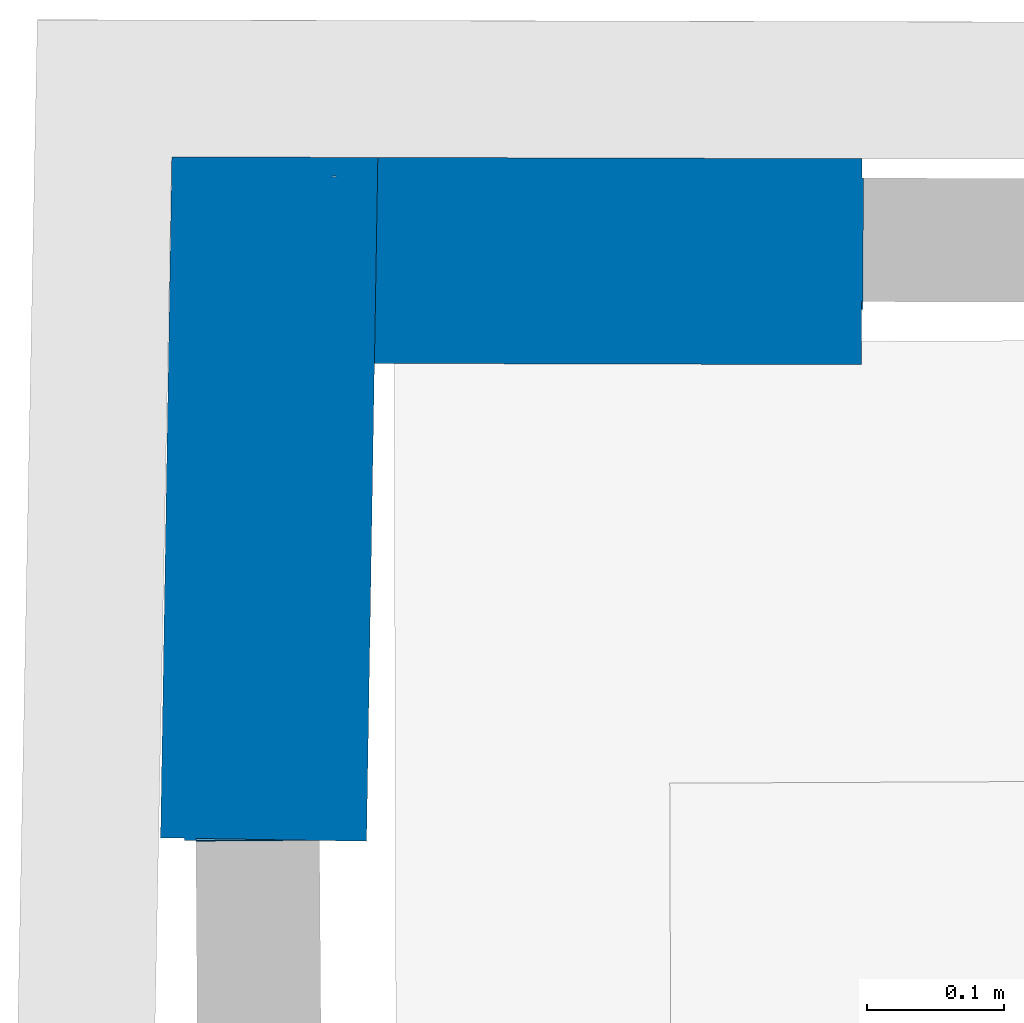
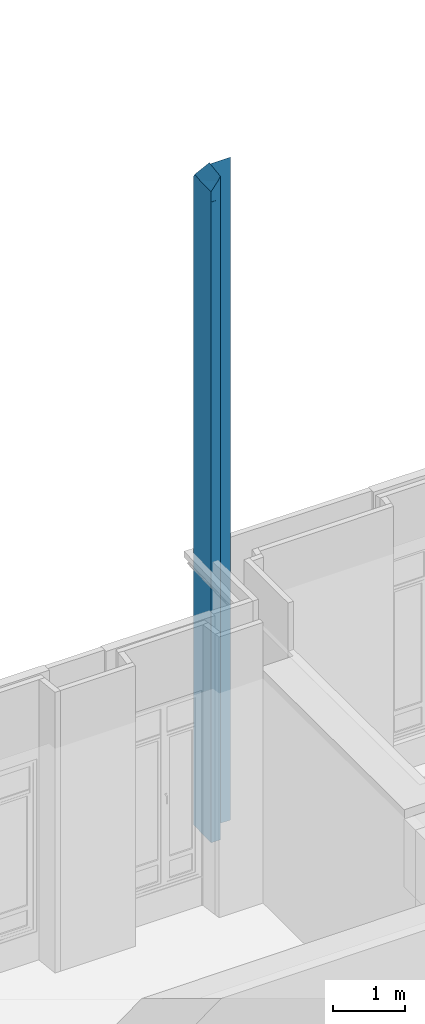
# One storey, part 69 of 97: 2 walls.
"""IFC2X3 building model written with IfcOpenShell, lengths in centimetres."""

from ifc_helpers import new_model, entity, si_unit, converted_unit, direction, frame, origin, origin_with_axes, place, context, subcontext, project, spatial, faceted_brep, material, layer, layer_set, layer_usage, type_object, element, save


model = new_model("IFC2X3")

# Units and contexts
model_context = context("Model", 3, precision=0.0001, world=origin(), true_north=direction((0.225632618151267, 0.974212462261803, 0.0)))
body_context = subcontext(model_context, "Body", "Model", "MODEL_VIEW")
ifc_project = project(units=[si_unit("LENGTHUNIT", "METRE", prefix="CENTI"), si_unit("AREAUNIT", "SQUARE_METRE", prefix="CENTI"), si_unit("VOLUMEUNIT", "CUBIC_METRE", prefix="CENTI"), converted_unit("PLANEANGLEUNIT", "DEGREE", entity("IfcRatioMeasure", 0.0174532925), si_unit("PLANEANGLEUNIT", "RADIAN"), dimensions=[0, 0, 0, 0, 0, 0, 0])], contexts=[model_context])

# Site, building, storey
site_placement = place(None, origin_with_axes())
site = spatial("IfcSite", under=ifc_project, at=site_placement, Name="Default Site", CompositionType="ELEMENT")
building_placement = place(site_placement, origin_with_axes())
building = spatial("IfcBuilding", under=site, at=building_placement, Name="Default Building", CompositionType="ELEMENT")
storey_placement = place(building_placement, origin_with_axes())
storey = spatial("IfcBuildingStorey", under=building, at=storey_placement, Name="Rez-de-chaussée", CompositionType="ELEMENT", Elevation=0.0)

# Walls
ifc_material = material(Name="<aucun>")
ifc_layer = layer(ifc_material, 15.0)
ifc_layer_set = layer_set([ifc_layer], Name="default")
ifc_layer_usage_1 = layer_usage(ifc_layer_set, "AXIS2", "POSITIVE", -7.5)
wall_type = type_object("IfcWallType", Name="default 150", PredefinedType="NOTDEFINED", material=ifc_layer_set)
wall_1_placement = place(storey_placement, frame((251.558979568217, 710.916284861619, 0.0128503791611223), z_axis=(0.0, 0.0, 1.0), x_axis=(0.0164953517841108, 0.999863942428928, 0.0)))
element("IfcWall", 1, at=wall_1_placement, inside=storey, type_object=wall_type, material=ifc_layer_usage_1, Name="Enveloppe 369602", context=body_context, shape_type="Brep", body=[
    faceted_brep([(34.7972728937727, 7.50000869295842, -4.62918597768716e-10), (31.9925167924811, 7.50000869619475, -4.62918597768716e-10), (31.9925167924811, 7.50000869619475, 1108.16652813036), (34.7972728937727, 7.50000869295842, 1108.51271190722), (-0.150587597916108, 4.92447038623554, -4.62918597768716e-10), (-0.190345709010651, 4.92352191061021, -4.62918597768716e-10), (-0.214658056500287, 4.92294191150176, -4.62918597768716e-10), (-0.214658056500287, 4.92294191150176, 477.795339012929), (-0.214658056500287, 4.92294191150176, 853.8975004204), (-0.150587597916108, 4.92447038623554, 853.8975004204), (49.5892958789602, 7.50001074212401, -4.62918597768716e-10), (48.2178213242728, 7.50001074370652, -4.62918597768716e-10), (46.4527111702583, 7.50001074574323, -4.62918597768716e-10), (46.4527111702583, 7.50001074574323, 1109.95132961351), (49.5892958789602, 7.50001074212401, 1105.00767269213), (-0.0199263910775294, -3.2383662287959, 1088.89753856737), (2.06551693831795e-06, -3.23799853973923, 1088.89753856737), (2.06551693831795e-06, -3.23799853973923, 853.8975004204), (-0.0199263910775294, -3.2383662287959, 853.8975004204), (-0.0199263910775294, -3.2383662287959, 1122.41709270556), (2.06551693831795e-06, -3.23799853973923, 1122.41652050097), (2.06551693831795e-06, -3.23799853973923, 1090.89748897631), (6.40575638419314e-06, 4.92806297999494, 853.8975004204), (6.40575638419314e-06, 4.92806297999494, -4.62918597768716e-10), (31.9925167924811, 7.49999645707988, -4.62918597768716e-10), (1.98516349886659e-05, 7.49999649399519, -4.62918597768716e-10), (1.98516349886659e-05, 7.49999649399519, 1108.30051937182), (31.9925167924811, 7.49999645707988, 1108.16652813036), (46.4527111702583, 7.50000850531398, -4.62918597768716e-10), (34.7972728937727, 7.50000851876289, -4.62918597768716e-10), (34.7972728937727, 7.50000851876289, 1108.51271190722), (46.4527111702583, 7.50000850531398, 1109.95132961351), (5.65486182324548e-06, 5.76353637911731, 853.8975004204), (-0.166048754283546, 5.76047260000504, 853.8975004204), (-0.166048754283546, 5.76047260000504, 1088.89753856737), (-0.166048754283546, 5.76047260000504, 1090.89748897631), (5.65486182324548e-06, 5.76353637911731, 1090.89748897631), (48.4172612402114, -7.50001048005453, -4.62918597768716e-10), (49.7987507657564, -7.5000104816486, -4.62918597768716e-10), (49.7987507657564, -7.5000104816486, 1105.01349010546), (48.4172612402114, -7.50001048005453, 1107.19091930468), (34.7972723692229, -7.49999131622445, -4.62918597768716e-10), (48.4172612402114, -7.4999913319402, -4.62918597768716e-10), (48.4172612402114, -7.4999913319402, 1107.19091930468), (34.7972723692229, -7.49999131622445, 1128.65784206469), (31.7182974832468, -7.49999693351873, -4.62918597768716e-10), (34.7972723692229, -7.49999693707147, -4.62918597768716e-10), (34.7972723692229, -7.49999693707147, 1128.65784206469), (31.7182974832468, -7.49999693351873, 1133.51070919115), (1.93270850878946e-05, -7.49999151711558, -4.62918597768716e-10), (31.7182974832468, -7.49999155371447, -4.62918597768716e-10), (31.7182974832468, -7.49999155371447, 1133.51070919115), (1.93270850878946e-05, -7.49999151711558, 1129.59597148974), (34.7972518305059, 5.75817131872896, -4.62918597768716e-10), (26.2390837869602, 5.55400720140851, -4.62918597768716e-10), (31.9925154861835, 7.50001436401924, 1108.16653871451), (26.239085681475, 5.55398123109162, 1110.7488720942), (34.7972518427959, 5.75817115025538, 1111.45966081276), (-0.10734268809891, 0.424206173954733, -4.62918597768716e-10), (-0.214657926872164, 4.92293647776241, -4.62918597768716e-10), (-0.190345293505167, 4.92350449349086, -4.62918597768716e-10), (1.90370439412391e-06, -3.23798976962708, -4.62918597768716e-10), (-0.0199263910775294, -3.2383662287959, -4.62918597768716e-10), (1.90370439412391e-06, -3.23798976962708, 853.8975004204), (-0.190345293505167, 4.92350449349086, 853.8975004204), (-0.214657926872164, 4.92293647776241, 853.8975004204), (-0.10734268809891, 0.424206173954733, 853.8975004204), (-0.10734268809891, 0.424206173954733, 477.795339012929), (-0.214665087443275, 4.92293630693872, 477.795339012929), (-0.214665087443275, 4.92293630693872, -4.62918597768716e-10), (-0.0199263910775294, -3.2383662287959, 477.795339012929), (-0.107301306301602, 0.424207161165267, 477.795339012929), (-0.107301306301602, 0.424207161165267, -4.62918597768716e-10), (-0.107301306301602, 0.424207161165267, 853.8975004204), (-0.214665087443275, 4.92293630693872, 853.8975004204), (49.7987507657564, -7.49999129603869, -4.62918597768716e-10), (48.2392642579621, 6.07881785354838, -4.62918597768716e-10), (44.9803965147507, 6.00109004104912, -4.62918597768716e-10), (44.9803932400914, 6.0010899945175, 1112.30547258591), (48.2392395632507, 6.07881750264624, 1107.16734788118), (48.4172419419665, -7.500010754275, 1107.19090706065), (49.7987377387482, -7.49999148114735, 1105.0134818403), (49.5892840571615, 7.5000105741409, 1105.00766519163), (48.2359272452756, 6.07873895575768, -4.62918597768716e-10), (34.7972574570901, -4.36552903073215, -4.62918597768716e-10), (44.9803488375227, 6.00108925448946, -4.62918597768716e-10), (44.9803488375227, 6.00108925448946, 1112.305570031), (34.7972689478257, -4.36552886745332, 1128.58765892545), (34.7972776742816, -7.49999124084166, 1128.65784543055), (48.4172543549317, -7.50001057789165, 1107.19091493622), (48.2359222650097, 6.07873888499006, 1107.17260559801), (-1.33019294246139e-05, -3.32089944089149, -4.62918597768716e-10), (-0.0178376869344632, -3.32739322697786, -4.62918597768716e-10), (-0.0178376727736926, -3.32738878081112, 1122.53411192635), (-1.33310655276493e-05, -3.32090858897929, 1122.52551851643), (1.89430979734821e-06, -3.23799271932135, 1122.41651825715), (-0.0178376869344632, -3.32739322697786, 477.795339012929), (-0.0199615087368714, -3.23836706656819, 477.795339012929), (-0.0199615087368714, -3.23836706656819, -4.62918597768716e-10), (-0.0178376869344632, -3.32739322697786, 853.8975004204), (-0.0199615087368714, -3.23836706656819, 853.8975004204), (-0.0178376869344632, -3.32739322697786, 1122.53410854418), (-0.0199615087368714, -3.23836706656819, 1122.41709270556), (-0.0199615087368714, -3.23836706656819, 1088.89753856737), (6.67474706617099e-06, 4.92805170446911, -4.62918597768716e-10), (1.90370439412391e-06, -3.23798976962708, 1088.89753856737), (-0.150599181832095, 4.92447017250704, 1088.89753856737), (-0.150599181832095, 4.92447017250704, 853.8975004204), (1.90370439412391e-06, -3.23798976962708, 1090.89748897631), (-0.150599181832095, 4.92447017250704, 1090.89748897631), (34.7972574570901, -4.36552903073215, 1128.587651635), (31.7182981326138, -7.49999692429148, 1133.51070960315), (34.7972661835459, -7.49999140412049, 1128.6578381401), (1.98516350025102e-05, 7.50000849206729, -4.62918597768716e-10), (5.65486182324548e-06, 5.76353637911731, -4.62918597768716e-10), (5.65486182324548e-06, 5.76353637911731, 1110.58323421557), (6.6306934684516e-06, 4.92803787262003, 1111.68157040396), (26.2390836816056, 5.55397412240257, 1110.7488622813), (31.9925168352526, 7.50000988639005, 1108.16653834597), (1.98050232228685e-05, 7.49999385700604, 1108.300508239), (1.98496313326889e-05, 5.76353637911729, -4.62918597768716e-10), (1.98496313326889e-05, 5.76353637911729, 853.8975004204), (1.98496313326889e-05, 5.76353637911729, 1090.89748897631), (1.98496313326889e-05, 5.76353637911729, 1110.58323421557), (1.98516350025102e-05, 7.50000849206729, 1108.30051937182), (6.67474706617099e-06, 4.92805170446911, 1111.68158092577), (6.67571111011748e-06, 5.7635363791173, 1110.58323421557), (6.67571111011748e-06, 5.7635363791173, 1090.89748897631), (6.67474706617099e-06, 4.92805170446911, 1090.89748897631), (6.67474706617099e-06, 4.92805170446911, 853.8975004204), (6.67571111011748e-06, 5.7635363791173, 853.8975004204), (6.67571111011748e-06, 5.7635363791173, -4.62918597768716e-10), (34.7972518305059, 5.75817131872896, 1111.45966091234), (44.9803963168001, 6.00109275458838, 1112.30547626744), (46.4527113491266, 7.50000605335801, 1109.95123279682), (34.7972728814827, 7.50000886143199, 1108.51271200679), (44.9803488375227, 6.00108925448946, 1112.30547466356), (34.7972518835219, 5.75817059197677, 1111.45966048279), (34.7972567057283, -4.36551873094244, 1128.5875623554), (1.98346224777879e-05, -4.07449950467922, -4.62918597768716e-10), (-0.0178376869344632, -3.32739322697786, 1122.53429927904), (1.94370473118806e-05, -4.07449405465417, 1123.80049589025), (-1.28910814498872e-05, -3.32090507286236, 1122.52552214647), (1.98346224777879e-05, -4.07449950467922, 477.795339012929), (-0.0178032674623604, -3.32739240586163, 477.795339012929), (-0.0178032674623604, -3.32739240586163, -4.62918597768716e-10), (1.98346224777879e-05, -4.07449950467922, 853.8975004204), (-0.0178032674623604, -3.32739240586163, 853.8975004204), (1.98346224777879e-05, -4.07449950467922, 1123.80049266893), (-0.0178032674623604, -3.32739240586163, 1122.53429927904), (1.90370439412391e-06, -3.23798976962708, 1122.41652050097), (-1.33216709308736e-05, -3.32090563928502, 1122.52552076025), (26.2390836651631, 5.55396895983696, 1110.74885835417), (6.61425101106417e-06, 4.92803271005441, 1111.68156647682), (1.91312697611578e-06, 4.92805170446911, 1111.68158092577), (1.91312697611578e-06, 4.92805170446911, 1090.89748897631), (31.7182991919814, -7.50002035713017, 1133.51069534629), (34.7972570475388, -4.36552341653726, 1128.58755958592), (34.7972522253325, 5.75816590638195, 1111.4596577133), (26.2390860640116, 5.5539759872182, 1110.74886899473), (-1.29295069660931e-05, -3.32090454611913, 1122.52552245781), (1.93986217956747e-05, -4.07449352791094, 1123.80049620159), (1.98306698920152e-05, -7.49999151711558, -4.62918597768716e-10), (1.98306698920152e-05, -7.49999151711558, 1129.59597148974), (-0.16604901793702, 5.76048688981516, 853.8975004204), (-0.150587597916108, 4.92447038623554, 1088.89753856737), (-0.166012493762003, 5.76048756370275, 1088.89753856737), (-0.166012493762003, 5.76048756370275, 853.8975004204), (-0.150587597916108, 4.92447038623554, 1090.89748897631), (-0.166012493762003, 5.76048756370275, 1090.89748897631), (49.5893400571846, 7.50001135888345, -4.62918597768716e-10), (49.5893400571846, 7.50001135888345, 1105.00767269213), (49.7987507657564, -7.49999129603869, 1105.01349010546)], [[[0, 1, 2, 3]], [[4, 5, 6, 7, 8, 9]], [[10, 11, 12, 13, 14]], [[15, 16, 17, 18]], [[19, 20, 21, 16, 15]], [[9, 22, 23, 4]], [[24, 25, 26, 27]], [[28, 29, 30, 31]], [[32, 33, 34, 35, 36]], [[37, 38, 39, 40]], [[41, 42, 43, 44]], [[45, 46, 47, 48]], [[49, 50, 51, 52]], [[53, 54, 24, 0]], [[3, 55, 56, 57]], [[58, 59, 60, 4, 61, 62]], [[18, 63, 9, 64, 65, 66]], [[67, 68, 69, 58]], [[70, 71, 72, 62]], [[18, 73, 71, 70]], [[66, 74, 68, 67]], [[10, 75, 37, 76, 77, 28]], [[31, 78, 79, 80, 81, 82]], [[83, 37, 41, 84, 85]], [[86, 87, 88, 89, 90]], [[61, 91, 92, 62]], [[19, 93, 94, 95]], [[96, 97, 98, 92]], [[99, 100, 97, 96]], [[101, 102, 103, 100, 99]], [[104, 61, 4]], [[105, 106, 107, 63]], [[108, 109, 106, 105]], [[41, 45, 84]], [[110, 111, 112]], [[113, 24, 54, 104, 114]], [[115, 116, 117, 118, 119]], [[113, 120, 121, 122, 123, 124]], [[125, 126, 127, 128]], [[104, 129, 130, 131]], [[0, 28, 85, 53]], [[132, 133, 134, 135]], [[84, 53, 85]], [[136, 137, 138]], [[91, 139, 92]], [[140, 141, 142]], [[143, 144, 145, 139]], [[146, 147, 144, 143]], [[148, 149, 147, 146]], [[104, 54, 91, 61]], [[150, 151, 152, 153]], [[150, 154, 155, 108]], [[139, 91, 54, 53, 84, 45, 49]], [[52, 156, 157, 158, 159, 160, 161]], [[139, 162, 163, 148, 146, 143]], [[32, 129, 9, 164]], [[165, 166, 167, 9]], [[168, 169, 166, 165]], [[75, 170, 171, 172]]]),
])
ifc_layer_usage_2 = layer_usage(ifc_layer_set, "AXIS2", "POSITIVE", -7.5)
wall_2_placement = place(storey_placement, frame((295.121340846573, 752.99511494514, 0.0128503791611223), z_axis=(0.0, 0.0, 1.0), x_axis=(-0.999996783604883, 0.00253629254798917, 0.0)))
element("IfcWall", 2, at=wall_2_placement, inside=storey, type_object=wall_type, material=ifc_layer_usage_2, Name="Enveloppe 369725", context=body_context, shape_type="Brep", body=[
    faceted_brep([(35.4704890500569, 7.49999480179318, -4.62918597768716e-10), (8.44530130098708e-06, 7.49999480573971, -4.62918597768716e-10), (8.44530130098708e-06, 7.49999480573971, 1128.67176570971), (35.4704890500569, 7.49999480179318, 1128.65784206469), (-0.0473383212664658, 2.91136700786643, 477.795339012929), (1.18043314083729e-05, 2.91132672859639, 477.795339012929), (1.18043314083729e-05, 2.91132672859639, 472.782493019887), (-0.0473383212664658, 2.91136700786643, 472.782493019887), (-0.0923520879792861, 2.91144357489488, 477.795339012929), (-0.074351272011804, 2.91142826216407, 477.795339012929), (-0.074351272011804, 2.91142826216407, 472.782493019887), (-0.0923520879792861, 2.91144357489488, 472.782493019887), (6.07750507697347e-06, 3.49642511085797, -4.62918597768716e-10), (-0.10585166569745, 3.49624762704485, -4.62918597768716e-10), (-0.10585166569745, 3.49624762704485, 472.782493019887), (6.07750507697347e-06, 3.49642511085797, 472.782493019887), (-0.0743513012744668, 2.91139386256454, 477.795339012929), (-0.0473383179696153, 2.91137088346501, 477.795339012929), (-0.0473383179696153, 2.91137088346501, 472.782493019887), (-0.0743513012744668, 2.91139386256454, 472.782493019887), (-0.0449245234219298, 3.30390674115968, 853.897500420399), (-5.68492449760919e-06, 3.30363186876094, 853.897500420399), (-5.68492449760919e-06, 3.30363186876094, 477.795339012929), (-0.0449245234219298, 3.30390674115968, 477.795339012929), (6.07750507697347e-06, 3.49642511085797, 853.897500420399), (-0.10585166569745, 3.49624762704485, 853.897500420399), (-0.10585166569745, 3.49624762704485, 1088.89753856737), (-0.10585166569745, 3.49624762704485, 1122.36073055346), (6.07750507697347e-06, 3.49642511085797, 1122.36092128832), (-0.0999953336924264, -6.08857233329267, -4.62918597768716e-10), (-2.06081177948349e-06, -6.08865739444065, -4.62918597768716e-10), (-2.06081177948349e-06, -6.08865739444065, 1107.25204982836), (-0.0999953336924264, -6.08857233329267, 1107.25224056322), (-0.0999953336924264, -6.08857233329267, 477.795339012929), (1.25393366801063e-06, -7.49999965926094, -4.62918597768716e-10), (35.2610781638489, -7.49999966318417, -4.62918597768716e-10), (35.2610781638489, -7.49999966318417, 1105.01349010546), (1.25393366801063e-06, -7.49999965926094, 1105.02731838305), (-0.104869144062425, 2.91145951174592, -4.62918597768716e-10), (-0.0923520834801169, 2.9114488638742, -4.62918597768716e-10), (-0.0923520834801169, 2.9114488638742, 472.782493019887), (-0.104869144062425, 2.91145951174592, 472.782493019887), (-0.0999899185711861, -5.69589565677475, -4.62918597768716e-10), (4.68880512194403e-06, -5.69650035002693, -4.62918597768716e-10), (-2.056654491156e-06, -6.08865250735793, -4.62918597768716e-10), (-2.056654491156e-06, -6.08865250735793, 1107.25204982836), (4.69680276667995e-06, -5.69653248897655, 1107.87014654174), (-0.0999899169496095, -5.69590217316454, 1107.87117932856), (-0.0999953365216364, -6.08856096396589, 1107.25223335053), (-0.099993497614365, -5.69589565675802, 477.795339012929), (-0.099993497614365, -5.69589565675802, -4.62918597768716e-10), (-0.099993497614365, -5.69589565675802, 1107.87117519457), (35.2803436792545, -6.11866671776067, -4.62918597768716e-10), (35.2610781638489, -7.50002190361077, -4.62918597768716e-10), (35.2610781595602, -7.50000466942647, 1105.01347917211), (35.2803436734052, -6.11864321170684, 1107.19090439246), (-2.06029878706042e-06, -6.08863786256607, 1107.25204053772), (35.2803628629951, -6.11866698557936, -4.62918597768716e-10), (35.2803628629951, -6.11866698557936, 1107.19091930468), (35.2610781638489, -7.50002190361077, 1105.01349010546), (-2.05681152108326e-06, -7.49999965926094, -4.62918597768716e-10), (-2.05681152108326e-06, -7.49999965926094, 1105.02731838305), (-7.67727614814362e-06, -5.5036191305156, -4.62918597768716e-10), (1.18190665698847e-05, 2.91134405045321, -4.62918597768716e-10), (-5.64007458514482e-06, 3.30363919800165, -4.62918597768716e-10), (8.44530130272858e-06, 7.50001045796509, -4.62918597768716e-10), (35.2803436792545, -6.11866671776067, 1107.19091930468), (35.4704890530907, 7.49998261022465, 1128.65784979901), (8.44996581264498e-06, 7.49999171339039, 1128.67177760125), (6.08374141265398e-06, 3.49640004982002, 1122.36093718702), (-5.63910350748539e-06, 3.30363529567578, 1122.05708312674), (1.18188724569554e-05, 2.91134483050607, 1121.43871772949), (-7.6771013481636e-06, -5.50361983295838, 1108.17425333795), (4.69900785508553e-06, -5.69654135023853, 1107.87015216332), (-2.05444940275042e-06, -6.0886613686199, 1107.25205544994), (35.4704699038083, 7.49999506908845, -4.62918597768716e-10), (35.4704699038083, 7.49999506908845, 1128.65784206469), (8.44485585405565e-06, 3.49642511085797, -4.62918597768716e-10), (8.44485585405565e-06, 3.49642511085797, 472.782493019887), (8.44485585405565e-06, 3.49642511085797, 853.897500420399), (8.44485585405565e-06, 3.49642511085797, 1122.36092128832), (8.44530130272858e-06, 7.50001045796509, 1128.67176570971), (6.07748362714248e-06, 3.30363919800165, 472.782493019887), (6.07748362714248e-06, 3.30363919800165, 477.795339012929), (6.07748362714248e-06, 3.30363919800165, 853.897500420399), (-5.64007458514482e-06, 3.30363919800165, 477.795339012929), (-5.64007458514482e-06, 3.30363919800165, 472.782493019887), (-5.64011823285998e-06, 2.91134405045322, 472.782493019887), (-5.64011823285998e-06, 2.91134405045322, 477.795339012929), (-0.0988321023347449, -5.50377441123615, -4.62918597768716e-10), (-0.0924901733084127, -4.46973362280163, -4.62918597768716e-10), (-0.0473383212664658, 2.91136700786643, -4.62918597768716e-10), (-0.0473383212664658, 2.91136700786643, 1121.43881359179), (-0.0924901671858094, -4.46975822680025, 1109.80400254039), (-0.0988320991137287, -5.50378735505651, 1108.17407036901), (-7.67233638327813e-06, -5.50363898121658, 1108.17426548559), (1.18236374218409e-05, 2.91132568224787, 1121.43872987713), (-0.0924901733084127, -4.46973362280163, 477.795339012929), (-0.0812787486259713, -2.63759559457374, 477.795339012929), (-0.0812787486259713, -2.63759559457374, -4.62918597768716e-10), (-0.0473383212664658, 2.91136700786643, 853.897500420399), (-0.0925055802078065, -4.469733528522, 477.795339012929), (-0.0925055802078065, -4.469733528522, 853.897500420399), (-0.0996014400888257, -5.63285659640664, -4.62918597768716e-10), (4.68880512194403e-06, -5.69650035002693, 1107.87012615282), (-7.6873040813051e-06, -5.50357883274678, 1108.17422732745), (-0.0988321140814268, -5.50372720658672, 1108.17403221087), (-0.0996014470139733, -5.63282876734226, 1107.9705304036), (-0.0999899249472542, -5.69587003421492, 1107.87115893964), (-0.0996014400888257, -5.63285659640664, 477.795339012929), (-0.0988115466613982, -5.50377453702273, 477.795339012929), (-0.0988115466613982, -5.50377453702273, -4.62918597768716e-10), (-0.0999899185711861, -5.69589565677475, 477.795339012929), (-0.0996041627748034, -5.63285657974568, 477.795339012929), (-0.0996041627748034, -5.63285657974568, -4.62918597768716e-10), (-0.0996014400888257, -5.63285659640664, 1107.97054805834), (-0.0988115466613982, -5.50377453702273, 1108.17406215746), (-0.0988115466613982, -5.50377453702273, 1088.89753856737), (-0.0988115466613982, -5.50377453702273, 853.897500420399), (-0.0999899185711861, -5.69589565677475, 1107.87117519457), (-0.0996041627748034, -5.63285657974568, 1107.97054805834), (-0.0743513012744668, 2.91139386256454, -4.62918597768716e-10), (-0.0952520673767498, -0.504302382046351, -4.62918597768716e-10), (-0.0923520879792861, 2.91144357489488, -4.62918597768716e-10), (-0.0952520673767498, -0.504302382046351, 477.795339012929), (-0.0952577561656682, -0.504302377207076, -4.62918597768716e-10), (-0.0952577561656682, -0.504302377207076, 477.795339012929), (-0.0449245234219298, 3.30390674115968, -4.62918597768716e-10), (-0.105851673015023, 3.49625199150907, -4.62918597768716e-10), (-0.071937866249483, 3.30407664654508, -4.62918597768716e-10), (-0.107033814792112, 3.30432141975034, -4.62918597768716e-10), (-0.107027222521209, 3.30432137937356, -4.62918597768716e-10), (-0.107027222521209, 3.30432137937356, 472.782493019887), (-0.105851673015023, 3.49625199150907, 472.782493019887), (-0.0955637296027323, -2.6374887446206, -4.62918597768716e-10), (-0.0965657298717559, -2.04501921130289, -4.62918597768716e-10), (-0.0958346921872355, -1.19581533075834, -4.62918597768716e-10), (-0.0958346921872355, -1.19581533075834, 477.795339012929), (-0.0965657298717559, -2.04501921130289, 477.795339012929), (-0.0955637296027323, -2.6374887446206, 477.795339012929), (-0.0965627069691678, -2.04501921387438, -4.62918597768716e-10), (-0.0965627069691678, -2.04501921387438, 477.795339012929), (-0.104877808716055, 2.91145946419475, -4.62918597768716e-10), (-0.104877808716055, 2.91145946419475, 472.782493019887), (-0.107033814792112, 3.30432141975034, 472.782493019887), (-0.0981406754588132, -4.46974795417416, -4.62918597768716e-10), (-0.0969465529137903, -2.63749225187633, -4.62918597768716e-10), (-0.0988321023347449, -5.50377441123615, 1108.17406215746), (-0.0924901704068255, -4.46974528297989, 1109.80399432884), (-0.0965657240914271, -2.04504243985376, 1113.62604222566), (-0.0969465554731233, -2.63748196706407, 1112.69218307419), (-0.0981406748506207, -4.46975039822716, 1109.80398848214), (-0.0988321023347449, -5.50377441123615, 1088.89753856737), (-0.0965699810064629, -2.04501920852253, 1088.89753856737), (-0.0965699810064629, -2.04501920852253, 853.897500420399), (-0.0988321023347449, -5.50377441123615, 853.897500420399), (-0.0924901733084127, -4.46973362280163, 853.897500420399), (-0.0965555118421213, -2.04501919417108, 477.795339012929), (-0.0965555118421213, -2.04501919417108, 853.897500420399), (-0.0988321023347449, -5.50377441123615, 477.795339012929), (-0.0969574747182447, -2.63749224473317, 477.795339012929), (-0.0969574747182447, -2.63749224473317, -4.62918597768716e-10), (-0.0969465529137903, -2.63749225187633, 477.795339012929), (-0.0965590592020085, -2.04501921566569, 477.795339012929), (-0.0965590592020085, -2.04501921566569, -4.62918597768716e-10), (-0.0981558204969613, -4.46974794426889, 1109.80398693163), (-0.0965699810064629, -2.04501920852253, 1113.62602748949), (-0.0988320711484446, -5.50372672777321, 853.897500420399), (-0.0981558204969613, -4.46974794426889, 853.897500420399), (-0.0965699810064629, -2.04501920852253, 477.795339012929), (-0.0981558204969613, -4.46974794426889, 477.795339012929), (1.18190665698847e-05, 2.91134405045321, 477.795339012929), (-0.0449245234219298, 3.30390674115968, 1122.05755748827), (-0.0473383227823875, 2.91137309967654, 1121.43880972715), (1.1822121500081e-05, 2.91133177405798, 1121.43872601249), (-5.63585446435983e-06, 3.30362223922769, 1122.05709140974), (-0.0473265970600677, 2.91136693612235, 477.795339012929), (-0.0473265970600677, 2.91136693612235, 853.897500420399), (-0.105851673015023, 3.49625199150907, 853.897500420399), (-5.64007458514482e-06, 3.30363919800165, 853.897500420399), (-0.0743513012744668, 2.91139386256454, 853.897500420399), (-0.071937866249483, 3.30407664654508, 853.897500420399), (-0.107033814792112, 3.30432141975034, 853.897500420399), (-0.107033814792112, 3.30432141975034, 1122.05812969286), (-0.071937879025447, 3.30412798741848, 1122.05781101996), (-0.0743513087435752, 2.91142387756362, 1121.4387945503), (-0.0473383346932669, 2.91142096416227, 1121.43877936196), (-0.0449245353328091, 3.30395460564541, 1122.05752712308), (-5.64776534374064e-06, 3.30367010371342, 1122.05706104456), (6.07507957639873e-06, 3.49643485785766, 1122.36091510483), (-0.105851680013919, 3.49628011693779, 1122.36071271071), (-0.107033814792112, 3.30432141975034, 1088.89753856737), (-0.105858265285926, 3.49625203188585, 1088.89753856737), (-0.105858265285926, 3.49625203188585, 853.897500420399), (-0.105858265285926, 3.49625203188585, 1122.36073055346), (-0.0952520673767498, -0.504302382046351, 853.897500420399), (-0.0923520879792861, 2.91144357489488, 853.897500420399), (-0.0923520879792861, 2.91144357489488, 1121.43890895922), (-0.0952520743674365, -0.504274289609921, 1116.05473204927), (-0.0743513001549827, 2.91138936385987, 1121.43881644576), (-0.104869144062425, 2.91145951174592, 853.897500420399), (-0.104869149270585, 2.91148044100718, 1121.43889568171), (-0.0923520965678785, 2.91147808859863, 1121.43888706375), (-0.104869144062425, 2.91145951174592, 1088.89753856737), (-0.107025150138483, 3.30432146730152, 1088.89753856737), (-0.107025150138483, 3.30432146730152, 853.897500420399), (-0.104869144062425, 2.91145951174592, 1121.43890895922), (-0.107025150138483, 3.30432146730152, 1122.05812969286), (-0.0983007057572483, -1.00375096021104, 853.897500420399), (-0.0991383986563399, -0.504264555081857, 853.897500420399), (-0.0991384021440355, -0.504250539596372, 1116.05474097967), (-0.0983007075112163, -1.00374391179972, 1115.26739188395), (-0.0952520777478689, -0.504260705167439, 1116.05472343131), (-0.0923520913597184, 2.91145715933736, 1121.43890034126), (-0.0983007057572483, -1.00375096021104, 1088.89753856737), (-0.104865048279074, 2.91145951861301, 1088.89753856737), (-0.104865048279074, 2.91145951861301, 853.897500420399), (-0.0991417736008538, -0.50455066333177, 1088.89753856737), (-0.0991421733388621, -0.504312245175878, 1116.05465450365), (-0.0965657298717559, -2.04501921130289, 853.897500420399), (-0.095678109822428, -1.00374430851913, 853.897500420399), (-0.0952520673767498, -0.504302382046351, 1116.05474987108), (-0.0956781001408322, -1.00378321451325, 1115.26742103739), (-0.0965657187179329, -2.04506403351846, 1113.62605592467), (-0.0924901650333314, -4.46976687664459, 1109.80400802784), (-0.0473383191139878, 2.91135835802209, 1121.43881907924), (-0.074351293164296, 2.91136127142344, 1121.43883426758), (-0.0983007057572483, -1.00375096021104, 1115.26739635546), (-0.0965657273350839, -2.04502940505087, 1113.6260339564), (-0.0956781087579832, -1.00374858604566, 1115.26739906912), (-0.0952520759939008, -0.504267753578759, 1116.05472790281), (-0.0965657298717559, -2.04501921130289, 1088.89753856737), (-0.0983115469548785, -1.00375097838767, 1088.89753856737), (-0.0983115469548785, -1.00375097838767, 853.897500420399), (-0.0965657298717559, -2.04501921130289, 1113.62602748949), (-0.0983115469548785, -1.00375097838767, 1115.26739635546)], [[[0, 1, 2, 3]], [[4, 5, 6, 7]], [[8, 9, 10, 11]], [[12, 13, 14, 15]], [[16, 17, 18, 19]], [[20, 21, 22, 23]], [[24, 25, 26, 27, 28]], [[29, 30, 31, 32, 33]], [[34, 35, 36, 37]], [[38, 39, 40, 41]], [[29, 42, 43, 44]], [[45, 46, 47, 48]], [[33, 49, 50, 29]], [[32, 51, 49, 33]], [[44, 52, 53, 34]], [[37, 54, 55, 56]], [[53, 57, 58, 59]], [[44, 60, 61, 45]], [[44, 43, 62, 63, 64, 12, 65, 0, 52]], [[66, 67, 68, 69, 70, 71, 72, 73, 74]], [[52, 75, 76, 66]], [[65, 77, 78, 79, 80, 81]], [[24, 15, 82, 83, 84]], [[85, 86, 87, 88]], [[63, 62, 89, 90, 91]], [[92, 93, 94, 95, 96]], [[97, 98, 99, 90]], [[100, 4, 101, 102]], [[42, 103, 89, 62, 43]], [[104, 105, 106, 107, 108]], [[109, 110, 111, 103]], [[112, 113, 114, 42]], [[115, 116, 117, 118, 110, 109]], [[119, 120, 113, 112]], [[121, 122, 123]], [[8, 124, 16]], [[123, 125, 126, 8]], [[64, 63, 91, 127]], [[128, 12, 64, 127, 91, 121, 129, 130]], [[128, 131, 132, 133]], [[121, 91, 90, 134, 135, 136, 122]], [[124, 137, 138, 139, 97, 4, 16]], [[122, 140, 141, 124]], [[129, 121, 123, 38, 130]], [[130, 142, 143, 144]], [[145, 146, 135, 90, 89]], [[147, 148, 149, 150, 151]], [[152, 153, 154, 155]], [[156, 97, 157, 158]], [[159, 160, 161, 89]], [[162, 163, 164, 146]], [[147, 165, 166, 153, 152]], [[159, 167, 168, 154, 169, 170]], [[85, 171, 4, 23]], [[172, 173, 174, 175]], [[20, 23, 176, 177]], [[178, 24, 179, 20, 100, 180, 181, 182]], [[183, 184, 185, 186, 187, 188, 189, 190]], [[191, 192, 193, 182]], [[183, 194, 192, 191]], [[180, 195, 196]], [[197, 198, 199]], [[181, 180, 196, 200, 182]], [[183, 201, 202, 185, 184]], [[203, 204, 205, 200]], [[206, 207, 204, 203]], [[196, 195, 208, 209, 200]], [[206, 210, 211, 212, 213]], [[214, 215, 216, 208]], [[203, 217, 218, 206]], [[180, 100, 156, 219, 220, 195]], [[221, 222, 223, 224, 225, 226]], [[195, 220, 219, 208]], [[227, 228, 229, 230]], [[231, 232, 233, 219]], [[231, 232, 233, 219]], [[234, 235, 232, 231]]]),
])

save(model, "model.ifc")
